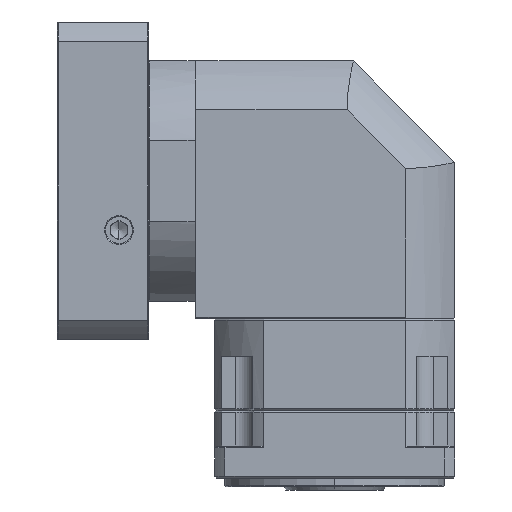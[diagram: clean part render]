
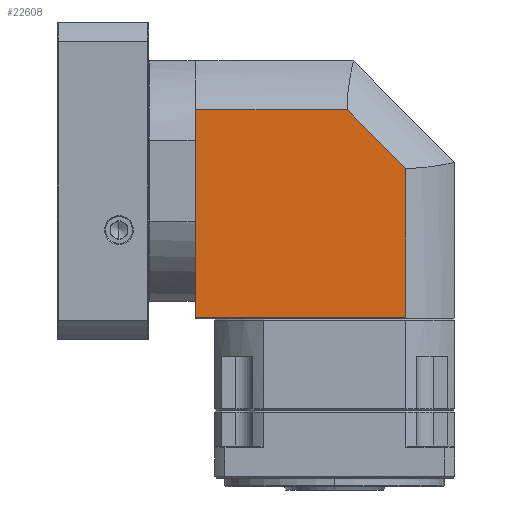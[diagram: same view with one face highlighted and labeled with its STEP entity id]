
A CAD part, left-side view. The second image highlights one B-rep face of the part: STEP entity #22608.
In plain terms, the highlighted planar face has unit normal (-1, 0, 0).
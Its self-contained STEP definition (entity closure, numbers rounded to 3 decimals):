
#202 = LINE ( 'NONE', #24868, #64624 ) ;
#297 = EDGE_CURVE ( 'NONE', #87621, #63828, #124106, .T. ) ;
#1017 = CARTESIAN_POINT ( 'NONE',  ( -181.145, 17.505, 15.123 ) ) ;
#2744 = EDGE_CURVE ( 'NONE', #101066, #87621, #202, .T. ) ;
#13152 = AXIS2_PLACEMENT_3D ( 'NONE', #102520, #22892, #123240 ) ;
#13547 = PLANE ( 'NONE',  #13152 ) ;
#17039 = CARTESIAN_POINT ( 'NONE',  ( -181.145, 17.505, 27.565 ) ) ;
#17742 = CARTESIAN_POINT ( 'NONE',  ( -181.145, 141.52, 62.238 ) ) ;
#19830 = EDGE_CURVE ( 'NONE', #101066, #77402, #45448, .T. ) ;
#21729 = DIRECTION ( 'NONE',  ( 0., 0., 1. ) ) ;
#22608 = ADVANCED_FACE ( 'NONE', ( #42726 ), #13547, .T. ) ;
#22892 = DIRECTION ( 'NONE',  ( -1., 0., 0. ) ) ;
#24868 = CARTESIAN_POINT ( 'NONE',  ( -181.145, 141.52, 15.123 ) ) ;
#30217 = DIRECTION ( 'NONE',  ( 0., -1., 0. ) ) ;
#35823 = CARTESIAN_POINT ( 'NONE',  ( -181.145, 17.505, -60.477 ) ) ;
#37875 = DIRECTION ( 'NONE',  ( 0., -1., 0. ) ) ;
#38229 = EDGE_CURVE ( 'NONE', #63828, #87024, #94425, .T. ) ;
#42726 = FACE_OUTER_BOUND ( 'NONE', #74651, .T. ) ;
#45448 = LINE ( 'NONE', #91305, #58021 ) ;
#46756 = ORIENTED_EDGE ( 'NONE', *, *, #297, .F. ) ;
#50443 = ORIENTED_EDGE ( 'NONE', *, *, #19830, .T. ) ;
#53910 = DIRECTION ( 'NONE',  ( 0., -0.707, -0.707 ) ) ;
#58021 = VECTOR ( 'NONE', #30217, 1000. ) ;
#59567 = LINE ( 'NONE', #1017, #114647 ) ;
#63828 = VERTEX_POINT ( 'NONE', #120769 ) ;
#64248 = ORIENTED_EDGE ( 'NONE', *, *, #108179, .T. ) ;
#64624 = VECTOR ( 'NONE', #86323, 1000. ) ;
#65668 = VECTOR ( 'NONE', #37875, 1000. ) ;
#74574 = CARTESIAN_POINT ( 'NONE',  ( -181.145, -65.87, -55.809 ) ) ;
#74651 = EDGE_LOOP ( 'NONE', ( #46756, #122234, #50443, #64248, #86708 ) ) ;
#76197 = CARTESIAN_POINT ( 'NONE',  ( -181.145, 141.52, -60.477 ) ) ;
#77402 = VERTEX_POINT ( 'NONE', #35823 ) ;
#86323 = DIRECTION ( 'NONE',  ( 0., 0., 1. ) ) ;
#86708 = ORIENTED_EDGE ( 'NONE', *, *, #38229, .F. ) ;
#87024 = VERTEX_POINT ( 'NONE', #17039 ) ;
#87621 = VERTEX_POINT ( 'NONE', #17742 ) ;
#91305 = CARTESIAN_POINT ( 'NONE',  ( -181.145, 65.27, -60.477 ) ) ;
#94425 = LINE ( 'NONE', #74574, #126012 ) ;
#101066 = VERTEX_POINT ( 'NONE', #76197 ) ;
#102520 = CARTESIAN_POINT ( 'NONE',  ( -181.145, 65.27, 15.123 ) ) ;
#108179 = EDGE_CURVE ( 'NONE', #77402, #87024, #59567, .T. ) ;
#114647 = VECTOR ( 'NONE', #21729, 1000. ) ;
#116757 = CARTESIAN_POINT ( 'NONE',  ( -181.145, -259.103, 62.238 ) ) ;
#120769 = CARTESIAN_POINT ( 'NONE',  ( -181.145, 52.177, 62.238 ) ) ;
#122234 = ORIENTED_EDGE ( 'NONE', *, *, #2744, .F. ) ;
#123240 = DIRECTION ( 'NONE',  ( 0., 0., -1. ) ) ;
#124106 = LINE ( 'NONE', #116757, #65668 ) ;
#126012 = VECTOR ( 'NONE', #53910, 1000. ) ;
